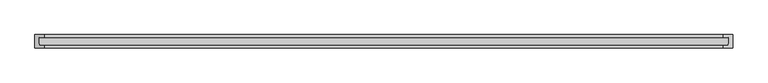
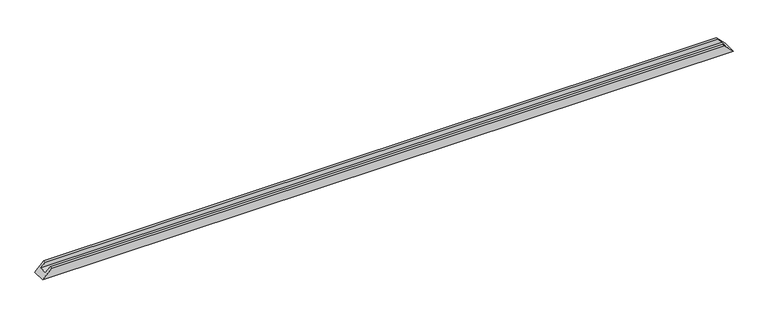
"""IFC4 building model written with IfcOpenShell, lengths in millimetres: proxy geometry, Weiku - Montante - Caixilho duplo 02.2.01.002 : Weiku - Montante - Caixilho duplo 02.2.01.002."""

import ifcopenshell
import ifcopenshell.guid

model = None  # the IFC model being written
_history = None  # IfcOwnerHistory: only IFC2X3 demands one
_inside = {}  # id of a spatial element -> (the spatial element, [elements in it])
_under = {}  # id of a project, library or spatial element -> (it, [spatial elements below it])
_declared = {}  # id of a project -> (the project, [libraries it declares])
_typed = {}  # id of a type object -> (the type object, [elements of that type])
_made_of = {}  # id of a material, layer set ... -> (it, [elements and type objects made of it])


def new_model(schema):
    """Start an empty IFC model of exactly this schema.

    Asked for "IFC4X3", IfcOpenShell would pick the latest addendum, in which some entities
    have other attributes; the version numbers below select the first issue.
    IFC2X3 requires an IfcOwnerHistory on every rooted entity: one is made here for all.
    """
    global model, _history
    if schema == "IFC4X3":
        model = ifcopenshell.file(schema_version=(4, 3, 0, 0))
    else:
        model = ifcopenshell.file(schema=schema)
    _inside.clear()
    _under.clear()
    _declared.clear()
    _typed.clear()
    _made_of.clear()
    _history = None
    if model.schema == "IFC2X3":
        org = make("IfcOrganization", Name="unknown")
        user = make(
            "IfcPersonAndOrganization",
            ThePerson=make("IfcPerson", FamilyName="unknown"),
            TheOrganization=org,
        )
        app = make(
            "IfcApplication",
            ApplicationDeveloper=org,
            Version="unknown",
            ApplicationFullName="unknown",
            ApplicationIdentifier="unknown",
        )
        _history = make(
            "IfcOwnerHistory",
            OwningUser=user,
            OwningApplication=app,
            ChangeAction="ADDED",
            CreationDate=0,
        )
    return model


def make(cls, **values):
    """One entity of the class cls with the attributes given. An attribute that is None is left unset."""
    return model.create_entity(
        cls, **{name: value for name, value in values.items() if value is not None}
    )


def rooted(cls, **values):
    """An entity with a GlobalId (a new one), such as an element, a storey or a relation."""
    return make(cls, GlobalId=ifcopenshell.guid.new(), OwnerHistory=_history, **values)


def si_unit(unit_type, name, prefix=None):
    """IfcSIUnit, for example si_unit("LENGTHUNIT", "METRE", prefix="MILLI")."""
    return make("IfcSIUnit", UnitType=unit_type, Prefix=prefix, Name=name)


def assignment(units):
    """IfcUnitAssignment: the units of a project."""
    return None if units is None else make("IfcUnitAssignment", Units=units)


def point(xyz):
    """IfcCartesianPoint."""
    return None if xyz is None else make("IfcCartesianPoint", Coordinates=xyz)


def direction(xyz):
    """IfcDirection."""
    return None if xyz is None else make("IfcDirection", DirectionRatios=xyz)


def frame(location, z_axis=None, x_axis=None):
    """IfcAxis2Placement3D, a coordinate frame: its origin and axes. An axis left out is left unset."""
    return make(
        "IfcAxis2Placement3D",
        Location=point(location),
        Axis=direction(z_axis),
        RefDirection=direction(x_axis),
    )


def origin():
    """The frame at (0, 0, 0) with its axes left unset."""
    return frame((0.0, 0.0, 0.0))


def place(relative_to, where):
    """IfcLocalPlacement: puts the frame where relative to a parent placement (None: the world)."""
    return make(
        "IfcLocalPlacement", PlacementRelTo=relative_to, RelativePlacement=where
    )


def context(
    kind, dimensions, precision=None, world=None, true_north=None, identifier=None
):
    """IfcGeometricRepresentationContext, for example the 3D "Model" context."""
    return make(
        "IfcGeometricRepresentationContext",
        ContextIdentifier=identifier,
        ContextType=kind,
        CoordinateSpaceDimension=dimensions,
        Precision=precision,
        WorldCoordinateSystem=world,
        TrueNorth=true_north,
    )


def project(units=None, contexts=None):
    """IfcProject with its units and contexts."""
    return rooted(
        "IfcProject",
        Name="project",
        RepresentationContexts=contexts,
        UnitsInContext=assignment(units),
    )


def spatial(cls, under=None, at=None, **own):
    """A site, building, storey or space (cls), placed at a placement, below another one or the project."""
    s = rooted(cls, ObjectPlacement=at, **own)
    if under is not None:
        _under.setdefault(under.id(), (under, []))[1].append(s)
    return s


def faces_of(points, faces, orient=None, outer=None):
    """IfcFace entities. A face is a list of loops; a loop is a list of indices into points, from 0.

    orient and outer hold one flag for each loop. By default every Orientation is true, the
    first loop of a face is its IfcFaceOuterBound and the others are IfcFaceBound.
    """
    made = []
    for i, loops in enumerate(faces):
        bounds = []
        for j, loop in enumerate(loops):
            is_outer = j == 0 if outer is None else outer[i][j]
            bounds.append(
                make(
                    "IfcFaceOuterBound" if is_outer else "IfcFaceBound",
                    Bound=make("IfcPolyLoop", Polygon=[points[k] for k in loop]),
                    Orientation=True if orient is None else orient[i][j],
                )
            )
        made.append(make("IfcFace", Bounds=bounds))
    return made


def faceted_brep(points, faces, orient=None, outer=None, voids=None):
    """IfcFacetedBrep: a solid bounded by flat faces; with voids (closed shells), ...WithVoids."""
    shared = [point(p) for p in points]
    hull = make("IfcClosedShell", CfsFaces=faces_of(shared, faces, orient, outer))
    if voids is None:
        return make("IfcFacetedBrep", Outer=hull)
    return make(
        "IfcFacetedBrepWithVoids",
        Outer=hull,
        Voids=[
            make(cls, CfsFaces=faces_of(shared, fs, o, b)) for cls, fs, o, b in voids
        ],
    )


def shape(context_of_items, identifier, shape_type, items):
    """IfcShapeRepresentation: the items that make up one representation, for example the "Body"."""
    return make(
        "IfcShapeRepresentation",
        ContextOfItems=context_of_items,
        RepresentationIdentifier=identifier,
        RepresentationType=shape_type,
        Items=items,
    )


def source(mapping_origin, context_of_items, identifier, shape_type, items):
    """IfcRepresentationMap: a shape defined once, which mapped items show again and again."""
    return make(
        "IfcRepresentationMap",
        MappingOrigin=mapping_origin,
        MappedRepresentation=shape(context_of_items, identifier, shape_type, items),
    )


def transform(
    local_origin,
    x_axis=None,
    y_axis=None,
    z_axis=None,
    scale=None,
    scale2=None,
    scale3=None,
    uniform=True,
):
    """IfcCartesianTransformationOperator3D, or its non-uniform kind. x_axis, y_axis, z_axis: its Axis1, 2, 3."""
    if uniform:
        return make(
            "IfcCartesianTransformationOperator3D",
            Axis1=direction(x_axis),
            Axis2=direction(y_axis),
            LocalOrigin=point(local_origin),
            Scale=scale,
            Axis3=direction(z_axis),
        )
    return make(
        "IfcCartesianTransformationOperator3DnonUniform",
        Axis1=direction(x_axis),
        Axis2=direction(y_axis),
        LocalOrigin=point(local_origin),
        Scale=scale,
        Axis3=direction(z_axis),
        Scale2=scale2,
        Scale3=scale3,
    )


def mapped(mapping_source, mapping_target):
    """IfcMappedItem: shows the shape of a source again, moved by a transform."""
    return make(
        "IfcMappedItem", MappingSource=mapping_source, MappingTarget=mapping_target
    )


def made_of(thing, what):
    """Note that an element or type object is made of a material, layer set ...; save() writes the relation."""
    if what is not None:
        _made_of.setdefault(what.id(), (what, []))[1].append(thing)
    return thing


def element(
    cls,
    number,
    at=None,
    inside=None,
    cuts=None,
    type_object=None,
    material=None,
    context=None,
    identifier="Body",
    shape_type=None,
    held_by="IfcProductDefinitionShape",
    body=None,
    shapes=None,
    **own,
):
    """One element of the class cls, such as IfcWall. Its Tag is "e" and its number.

    at: its placement. inside: the storey or other place that contains it. cuts: it is an
    opening in that element (IfcRelVoidsElement). A single representation is given by context,
    identifier, shape_type and body (its items); several are given by shapes. held_by: the class
    of the entity that holds the representations. save() writes the other relations.
    """
    e = rooted(cls, Tag="e%d" % number, ObjectPlacement=at, **own)
    if body is not None:
        shapes = [shape(context, identifier, shape_type, body)]
    if shapes is not None:
        e.Representation = make(held_by, Representations=shapes)
    if inside is not None:
        _inside.setdefault(inside.id(), (inside, []))[1].append(e)
    if cuts is not None:
        rooted(
            "IfcRelVoidsElement", RelatingBuildingElement=cuts, RelatedOpeningElement=e
        )
    if type_object is not None:
        _typed.setdefault(type_object.id(), (type_object, []))[1].append(e)
    return made_of(e, material)


def aggregate(whole, parts):
    """IfcRelAggregates: a whole, such as a stair, and the parts it consists of."""
    return rooted("IfcRelAggregates", RelatingObject=whole, RelatedObjects=parts)


def save(model, path):
    """Write the relations noted so far, then the file.

    IfcRelAggregates (storeys below a building ...), IfcRelContainedInSpatialStructure (elements
    in a storey), IfcRelDefinesByType, IfcRelAssociatesMaterial and IfcRelDeclares: one each for
    every whole, place, type object, material and project.
    """
    for whole, parts in _under.values():
        aggregate(whole, parts)
    for where, things in _inside.values():
        rooted(
            "IfcRelContainedInSpatialStructure",
            RelatedElements=things,
            RelatingStructure=where,
        )
    for kind, things in _typed.values():
        rooted("IfcRelDefinesByType", RelatedObjects=things, RelatingType=kind)
    for what, things in _made_of.values():
        rooted("IfcRelAssociatesMaterial", RelatedObjects=things, RelatingMaterial=what)
    for by, libraries in _declared.values():
        rooted("IfcRelDeclares", RelatingContext=by, RelatedDefinitions=libraries)
    model.write(path)


def generic_models_3ca8073a(model_context):
    return source(origin(), model_context, "Body", "Brep", [
        faceted_brep([(-1969.0, -15.0, 26.0), (1969.0, -15.0, 26.0), (1943.0, -15.0, 52.0), (-1943.0, -15.0, 52.0), (-1971.2229744, -62.0, 23.7770256), (1971.2229744, -62.0, 23.7770256), (-1943.0, -62.0, 52.0), (1943.0, -62.0, 52.0), (-1943.0, -77.0, 52.0), (1943.0, -77.0, 52.0), (1995.0, -77.0, 0.0), (-1995.0, -77.0, 0.0), (-1995.0, 0.0, 0.0), (1995.0, 0.0, 0.0), (-1943.0, 0.0, 52.0), (1943.0, 0.0, 52.0)], [[[0, 1, 2, 3]], [[4, 5, 1, 0]], [[6, 7, 5, 4]], [[8, 9, 7, 6]], [[10, 9, 8, 11]], [[11, 12, 13, 10]], [[12, 14, 15, 13]], [[3, 2, 15, 14]], [[3, 14, 12, 11, 8, 6, 4, 0]], [[1, 5, 7, 9, 10, 13, 15, 2]]]),
    ])


if __name__ == "__main__":
    model = new_model("IFC4")
    model_context = context("Model", 3, world=origin())
    ifc_project = project(units=[si_unit("LENGTHUNIT", "METRE", prefix="MILLI")], contexts=[model_context])
    site = spatial("IfcSite", under=ifc_project)
    building = spatial("IfcBuilding", under=site)
    placement = place(None, origin())
    generic_models_shape = generic_models_3ca8073a(model_context)
    element("IfcBuildingElementProxy", 1, Name="Weiku - Montante - Caixilho duplo 02.2.01.002 : Weiku - Montante - Caixilho duplo 02.2.01.002", ObjectType="Weiku - Montante - Caixilho duplo 02.2.01.002 : Weiku - Montante - Caixilho duplo 02.2.01.002", at=placement, inside=building, context=model_context, shape_type="MappedRepresentation", body=[
        mapped(generic_models_shape, transform((0.0, 0.0, 0.0), x_axis=(1.0, 0.0, 0.0), y_axis=(0.0, 1.0, 0.0), z_axis=(0.0, 0.0, 1.0))),
    ])
    save(model, "model.ifc")
